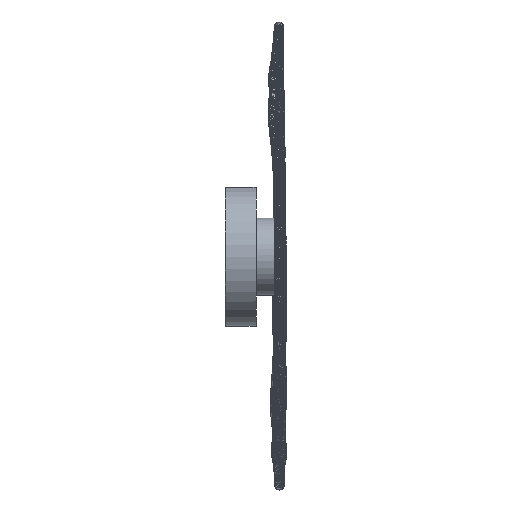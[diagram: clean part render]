
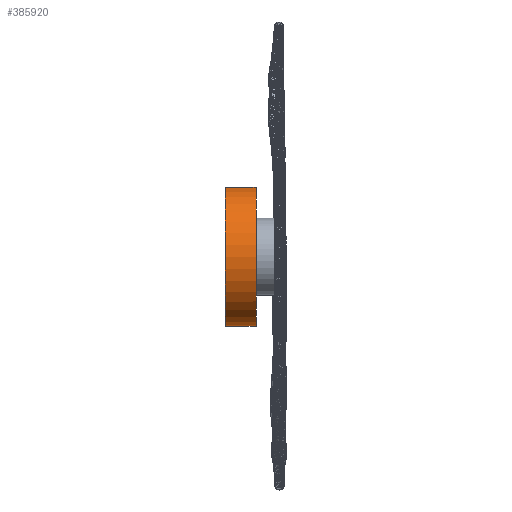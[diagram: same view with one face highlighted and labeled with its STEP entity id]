
A CAD part, left-side view. The second image highlights one B-rep face of the part: STEP entity #385920.
In plain terms, the highlighted cylindrical face has radius 90 mm (diameter 180 mm), a partial arc.
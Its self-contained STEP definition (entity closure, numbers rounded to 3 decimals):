
#30013 = CIRCLE ( 'NONE', #254258, 90. ) ;
#31063 = CARTESIAN_POINT ( 'NONE',  ( 374.562, 78.203, 373.097 ) ) ;
#55798 = EDGE_CURVE ( 'NONE', #204588, #396973, #313882, .T. ) ;
#58000 = EDGE_CURVE ( 'NONE', #293345, #204588, #30013, .T. ) ;
#59135 = ORIENTED_EDGE ( 'NONE', *, *, #58000, .F. ) ;
#97738 = VECTOR ( 'NONE', #409575, 1000. ) ;
#100394 = ORIENTED_EDGE ( 'NONE', *, *, #137597, .T. ) ;
#104487 = EDGE_CURVE ( 'NONE', #293345, #342054, #359850, .T. ) ;
#116379 = DIRECTION ( 'NONE',  ( 0., 0.001, 1. ) ) ;
#120038 = AXIS2_PLACEMENT_3D ( 'NONE', #31063, #164888, #160737 ) ;
#136579 = CARTESIAN_POINT ( 'NONE',  ( 374.562, 78.128, 283.097 ) ) ;
#137597 = EDGE_CURVE ( 'NONE', #342054, #396973, #353641, .T. ) ;
#154479 = EDGE_LOOP ( 'NONE', ( #401745, #59135, #318462, #100394 ) ) ;
#154570 = DIRECTION ( 'NONE',  ( 0., 1., -0.001 ) ) ;
#160737 = DIRECTION ( 'NONE',  ( 0., -0.001, -1. ) ) ;
#164888 = DIRECTION ( 'NONE',  ( 0., -1., 0.001 ) ) ;
#197345 = AXIS2_PLACEMENT_3D ( 'NONE', #257907, #339455, #409519 ) ;
#202440 = DIRECTION ( 'NONE',  ( 0., -1., 0.001 ) ) ;
#204588 = VERTEX_POINT ( 'NONE', #314762 ) ;
#219532 = VECTOR ( 'NONE', #202440, 1000. ) ;
#254258 = AXIS2_PLACEMENT_3D ( 'NONE', #350121, #154570, #116379 ) ;
#257907 = CARTESIAN_POINT ( 'NONE',  ( 374.57, 38.203, 373.131 ) ) ;
#293345 = VERTEX_POINT ( 'NONE', #406332 ) ;
#309691 = CARTESIAN_POINT ( 'NONE',  ( 374.562, 78.278, 463.097 ) ) ;
#313882 = LINE ( 'NONE', #309691, #97738 ) ;
#314762 = CARTESIAN_POINT ( 'NONE',  ( 374.562, 78.278, 463.097 ) ) ;
#318462 = ORIENTED_EDGE ( 'NONE', *, *, #104487, .T. ) ;
#322061 = CARTESIAN_POINT ( 'NONE',  ( 374.57, 38.278, 463.13 ) ) ;
#339455 = DIRECTION ( 'NONE',  ( 0., 1., -0.001 ) ) ;
#342054 = VERTEX_POINT ( 'NONE', #353184 ) ;
#350121 = CARTESIAN_POINT ( 'NONE',  ( 374.562, 78.203, 373.097 ) ) ;
#353184 = CARTESIAN_POINT ( 'NONE',  ( 374.57, 38.128, 283.131 ) ) ;
#353641 = CIRCLE ( 'NONE', #197345, 90. ) ;
#356283 = FACE_OUTER_BOUND ( 'NONE', #154479, .T. ) ;
#359850 = LINE ( 'NONE', #136579, #219532 ) ;
#385920 = ADVANCED_FACE ( 'NONE', ( #356283 ), #415904, .T. ) ;
#396973 = VERTEX_POINT ( 'NONE', #322061 ) ;
#401745 = ORIENTED_EDGE ( 'NONE', *, *, #55798, .F. ) ;
#406332 = CARTESIAN_POINT ( 'NONE',  ( 374.562, 78.128, 283.097 ) ) ;
#409519 = DIRECTION ( 'NONE',  ( 0., 0.001, 1. ) ) ;
#409575 = DIRECTION ( 'NONE',  ( 0., -1., 0.001 ) ) ;
#415904 = CYLINDRICAL_SURFACE ( 'NONE', #120038, 90. ) ;
